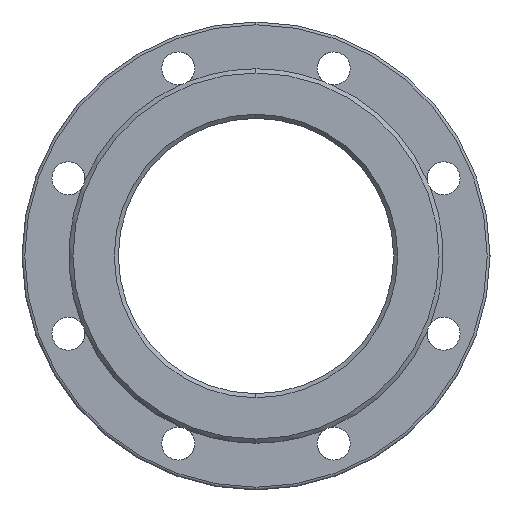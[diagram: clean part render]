
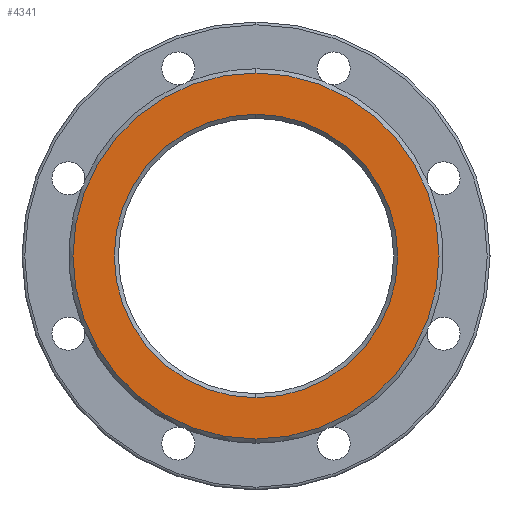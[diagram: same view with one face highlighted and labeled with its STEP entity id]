
A CAD part, left-side view. The second image highlights one B-rep face of the part: STEP entity #4341.
In plain terms, the highlighted planar face has unit normal (-1, 0, 0).
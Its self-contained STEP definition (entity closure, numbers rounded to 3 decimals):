
#21 = VERTEX_POINT ( 'NONE', #4687 ) ;
#579 = VERTEX_POINT ( 'NONE', #2468 ) ;
#581 = EDGE_CURVE ( 'Defeatured_0_4+Defeatured_0_0+Defeatured_0_0+Defeatured_0_0', #5088, #579, #3065, .T. ) ;
#881 = CARTESIAN_POINT ( 'NONE',  ( -250., 0., 0. ) ) ;
#903 = CARTESIAN_POINT ( 'NONE',  ( -250., 0., 0. ) ) ;
#908 = FACE_BOUND ( 'NONE', #1268, .T. ) ;
#913 = CARTESIAN_POINT ( 'NONE',  ( -250., 0., 0. ) ) ;
#931 = ORIENTED_EDGE ( 'NONE', *, *, #581, .T. ) ;
#996 = AXIS2_PLACEMENT_3D ( 'NONE', #881, #2952, #4542 ) ;
#1024 = ORIENTED_EDGE ( 'NONE', *, *, #4249, .T. ) ;
#1088 = DIRECTION ( 'NONE',  ( 1., 0., 0. ) ) ;
#1131 = AXIS2_PLACEMENT_3D ( 'NONE', #4027, #3599, #1690 ) ;
#1268 = EDGE_LOOP ( 'NONE', ( #1024, #1449 ) ) ;
#1418 = CIRCLE ( 'NONE', #996, 133. ) ;
#1449 = ORIENTED_EDGE ( 'NONE', *, *, #3912, .T. ) ;
#1690 = DIRECTION ( 'NONE',  ( 0., 0., -1. ) ) ;
#1707 = DIRECTION ( 'NONE',  ( -1., 0., 0. ) ) ;
#1891 = DIRECTION ( 'NONE',  ( 0., 0., -1. ) ) ;
#2058 = CIRCLE ( 'NONE', #2385, 103. ) ;
#2076 = DIRECTION ( 'NONE',  ( 0., 0., 1. ) ) ;
#2109 = VERTEX_POINT ( 'NONE', #3225 ) ;
#2290 = EDGE_CURVE ( 'Defeatured_0_4+Defeatured_0_0+Defeatured_0_0+Defeatured_0_0', #579, #5088, #1418, .T. ) ;
#2385 = AXIS2_PLACEMENT_3D ( 'NONE', #4679, #1088, #1891 ) ;
#2468 = CARTESIAN_POINT ( 'NONE',  ( -250., 0., 133. ) ) ;
#2501 = FACE_OUTER_BOUND ( 'NONE', #4587, .T. ) ;
#2704 = CARTESIAN_POINT ( 'NONE',  ( -250., 0., -133. ) ) ;
#2952 = DIRECTION ( 'NONE',  ( -1., 0., 0. ) ) ;
#3065 = CIRCLE ( 'NONE', #3663, 133. ) ;
#3225 = CARTESIAN_POINT ( 'NONE',  ( -250., 0., 103. ) ) ;
#3599 = DIRECTION ( 'NONE',  ( 1., 0., 0. ) ) ;
#3663 = AXIS2_PLACEMENT_3D ( 'NONE', #903, #1707, #2076 ) ;
#3851 = CIRCLE ( 'NONE', #4534, 103. ) ;
#3912 = EDGE_CURVE ( 'Defeatured_0_4+Defeatured_0_20+Defeatured_0_20+Defeatured_0_20', #21, #2109, #3851, .T. ) ;
#4027 = CARTESIAN_POINT ( 'NONE',  ( -250., 100., 0. ) ) ;
#4057 = PLANE ( 'NONE',  #1131 ) ;
#4249 = EDGE_CURVE ( 'Defeatured_0_4+Defeatured_0_20+Defeatured_0_20+Defeatured_0_20', #2109, #21, #2058, .T. ) ;
#4341 = ADVANCED_FACE ( 'Defeatured_0_4', ( #908, #2501 ), #4057, .F. ) ;
#4458 = DIRECTION ( 'NONE',  ( 1., 0., 0. ) ) ;
#4505 = DIRECTION ( 'NONE',  ( 0., 0., -1. ) ) ;
#4534 = AXIS2_PLACEMENT_3D ( 'NONE', #913, #4458, #4505 ) ;
#4542 = DIRECTION ( 'NONE',  ( 0., 0., 1. ) ) ;
#4587 = EDGE_LOOP ( 'NONE', ( #931, #4929 ) ) ;
#4679 = CARTESIAN_POINT ( 'NONE',  ( -250., 0., 0. ) ) ;
#4687 = CARTESIAN_POINT ( 'NONE',  ( -250., 0., -103. ) ) ;
#4929 = ORIENTED_EDGE ( 'NONE', *, *, #2290, .T. ) ;
#5088 = VERTEX_POINT ( 'NONE', #2704 ) ;
